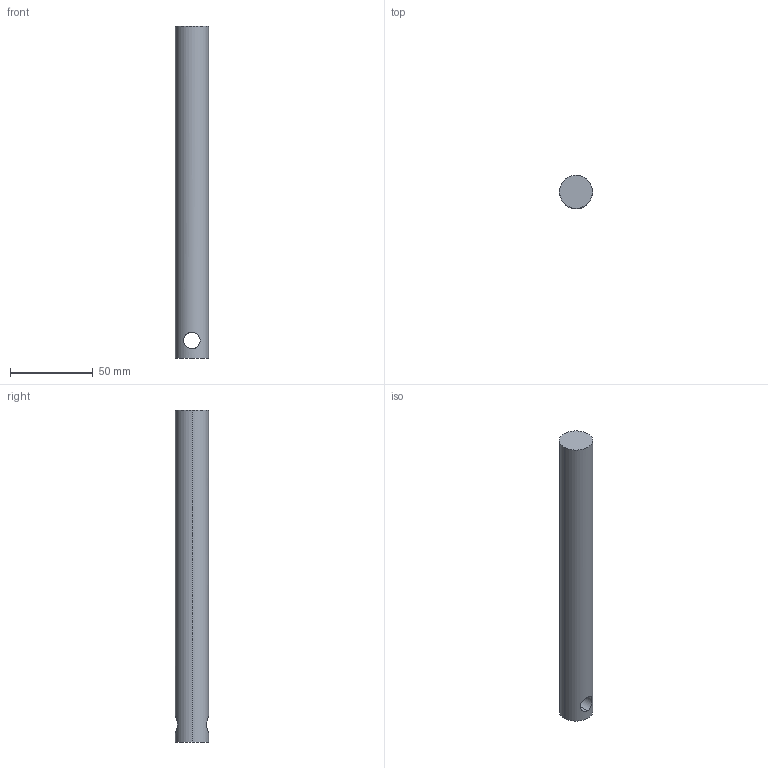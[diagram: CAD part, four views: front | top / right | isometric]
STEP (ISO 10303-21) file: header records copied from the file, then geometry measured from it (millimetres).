
FILE_DESCRIPTION (( 'STEP AP203' ), '1' );
FILE_NAME ('horizontal arm_Default_sldprt.STEP', '2025-01-16T15:44:57', ( '' ), ( '' ), 'SwSTEP 2.0', 'SolidWorks 2020', '' );
FILE_SCHEMA (( 'CONFIG_CONTROL_DESIGN' ));
Length unit declared in the file: millimetre
Products named in the file (1): horizontal arm_Default_sldprt
Bounding box: 20 x 20 x 200 mm (x, y, z)
Volume: 61312.1 mm3; surface area: 13619 mm2
Topology: 1 solids, 1 shells, 6 faces, 12 edges, 8 vertices
Faces by surface type: cylinder 4, plane 2
Entity records: 380 total; most frequent: CARTESIAN_POINT 174, DIRECTION 26, ORIENTED_EDGE 24, EDGE_CURVE 12, AXIS2_PLACEMENT_3D 11, EDGE_LOOP 8, PERSON_AND_ORGANIZATION 8, VERTEX_POINT 8
